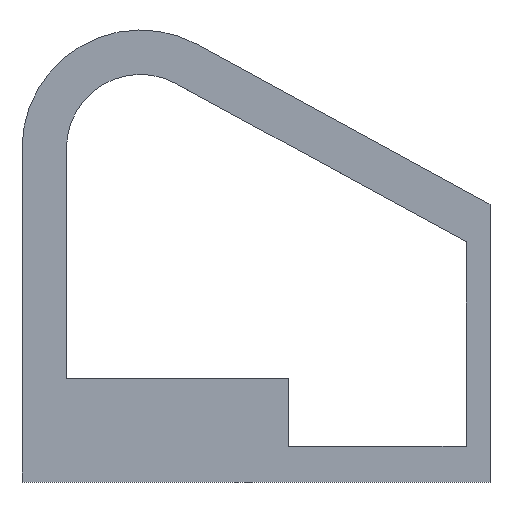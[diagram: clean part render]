
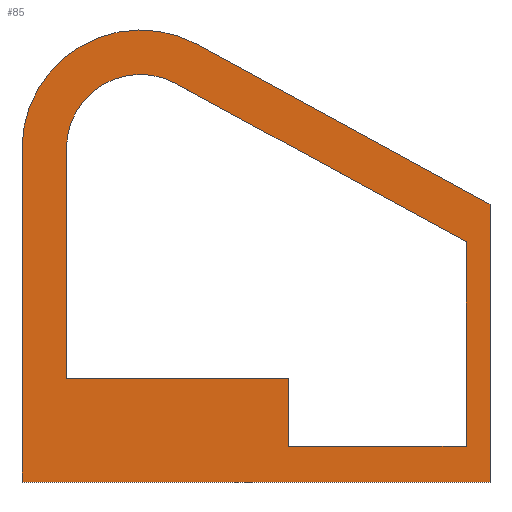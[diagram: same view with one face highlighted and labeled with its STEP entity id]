
A CAD part, top view. The second image highlights one B-rep face of the part: STEP entity #85.
In plain terms, the highlighted planar face has unit normal (0, 0, 1).
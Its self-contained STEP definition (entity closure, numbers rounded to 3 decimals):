
#85=ADVANCED_FACE('',(#207,#209),#211,.T.);
#207=FACE_BOUND('',#208,.T.);
#208=EDGE_LOOP('',(#306,#307,#308,#309,#310));
#209=FACE_BOUND('',#210,.T.);
#210=EDGE_LOOP('',(#311,#312,#313,#314,#315,#316,#317));
#211=PLANE('',#212);
#212=AXIS2_PLACEMENT_3D('',#213,#214,#215);
#213=CARTESIAN_POINT('',(0.,0.,0.6));
#214=DIRECTION('',(0.,0.,1.));
#215=DIRECTION('',(1.,0.,0.));
#306=ORIENTED_EDGE('',*,*,#376,.T.);
#307=ORIENTED_EDGE('',*,*,#365,.T.);
#308=ORIENTED_EDGE('',*,*,#377,.T.);
#309=ORIENTED_EDGE('',*,*,#359,.T.);
#310=ORIENTED_EDGE('',*,*,#378,.T.);
#311=ORIENTED_EDGE('',*,*,#379,.T.);
#312=ORIENTED_EDGE('',*,*,#380,.T.);
#313=ORIENTED_EDGE('',*,*,#381,.T.);
#314=ORIENTED_EDGE('',*,*,#382,.T.);
#315=ORIENTED_EDGE('',*,*,#383,.T.);
#316=ORIENTED_EDGE('',*,*,#384,.T.);
#317=ORIENTED_EDGE('',*,*,#385,.T.);
#359=EDGE_CURVE('',#397,#395,#398,.T.);
#365=EDGE_CURVE('',#402,#407,#409,.T.);
#376=EDGE_CURVE('',#428,#402,#429,.F.);
#377=EDGE_CURVE('',#407,#397,#430,.T.);
#378=EDGE_CURVE('',#395,#428,#431,.F.);
#379=EDGE_CURVE('',#432,#433,#434,.T.);
#380=EDGE_CURVE('',#433,#435,#436,.T.);
#381=EDGE_CURVE('',#435,#437,#438,.T.);
#382=EDGE_CURVE('',#437,#439,#440,.T.);
#383=EDGE_CURVE('',#439,#441,#442,.T.);
#384=EDGE_CURVE('',#441,#443,#444,.T.);
#385=EDGE_CURVE('',#443,#432,#445,.T.);
#395=VERTEX_POINT('',#455);
#397=VERTEX_POINT('',#459);
#398=LINE('',#460,#461);
#402=VERTEX_POINT('',#470);
#407=VERTEX_POINT('',#479);
#409=LINE('',#483,#484);
#428=VERTEX_POINT('',#526);
#429=LINE('',#527,#528);
#430=CIRCLE('',#530,40.);
#431=LINE('',#534,#535);
#432=VERTEX_POINT('',#537);
#433=VERTEX_POINT('',#538);
#434=LINE('',#539,#540);
#435=VERTEX_POINT('',#542);
#436=CIRCLE('',#543,25.);
#437=VERTEX_POINT('',#547);
#438=LINE('',#548,#549);
#439=VERTEX_POINT('',#551);
#440=LINE('',#552,#553);
#441=VERTEX_POINT('',#555);
#442=LINE('',#556,#557);
#443=VERTEX_POINT('',#559);
#444=LINE('',#560,#561);
#445=LINE('',#563,#564);
#455=CARTESIAN_POINT('',(-295.,0.,0.6));
#459=CARTESIAN_POINT('',(-295.,112.617,0.6));
#460=CARTESIAN_POINT('',(-295.,112.617,0.6));
#461=VECTOR('',#462,1.);
#462=DIRECTION('',(0.,-1.,0.));
#470=CARTESIAN_POINT('',(-137.,93.779,0.6));
#479=CARTESIAN_POINT('',(-235.836,147.727,0.6));
#483=CARTESIAN_POINT('',(-137.,93.779,0.6));
#484=VECTOR('',#485,1.);
#485=DIRECTION('',(-0.878,0.479,0.));
#526=CARTESIAN_POINT('',(-137.,0.,0.6));
#527=CARTESIAN_POINT('',(-137.,93.779,0.6));
#528=VECTOR('',#529,1.);
#529=DIRECTION('',(0.,-1.,0.));
#530=AXIS2_PLACEMENT_3D('',#531,#532,#533);
#531=CARTESIAN_POINT('',(-255.,112.617,0.6));
#532=DIRECTION('',(0.,0.,1.));
#533=DIRECTION('',(0.479,0.878,0.));
#534=CARTESIAN_POINT('',(-137.,0.,0.6));
#535=VECTOR('',#536,1.);
#536=DIRECTION('',(-1.,0.,0.));
#537=CARTESIAN_POINT('',(-280.,35.,0.6));
#538=CARTESIAN_POINT('',(-280.,112.617,0.6));
#539=CARTESIAN_POINT('',(-280.,35.,0.6));
#540=VECTOR('',#541,1.);
#541=DIRECTION('',(0.,1.,0.));
#542=CARTESIAN_POINT('',(-243.022,134.561,0.6));
#543=AXIS2_PLACEMENT_3D('',#544,#545,#546);
#544=CARTESIAN_POINT('',(-255.,112.617,0.6));
#545=DIRECTION('',(0.,0.,-1.));
#546=DIRECTION('',(-1.,0.,0.));
#547=CARTESIAN_POINT('',(-145.076,81.098,0.6));
#548=CARTESIAN_POINT('',(-243.022,134.561,0.6));
#549=VECTOR('',#550,1.);
#550=DIRECTION('',(0.878,-0.479,0.));
#551=CARTESIAN_POINT('',(-145.076,12.,0.6));
#552=CARTESIAN_POINT('',(-145.076,81.098,0.6));
#553=VECTOR('',#554,1.);
#554=DIRECTION('',(0.,-1.,0.));
#555=CARTESIAN_POINT('',(-205.027,12.,0.6));
#556=CARTESIAN_POINT('',(-145.076,12.,0.6));
#557=VECTOR('',#558,1.);
#558=DIRECTION('',(-1.,0.,0.));
#559=CARTESIAN_POINT('',(-205.027,35.,0.6));
#560=CARTESIAN_POINT('',(-205.027,12.,0.6));
#561=VECTOR('',#562,1.);
#562=DIRECTION('',(0.,1.,0.));
#563=CARTESIAN_POINT('',(-205.027,35.,0.6));
#564=VECTOR('',#565,1.);
#565=DIRECTION('',(-1.,0.,0.));
